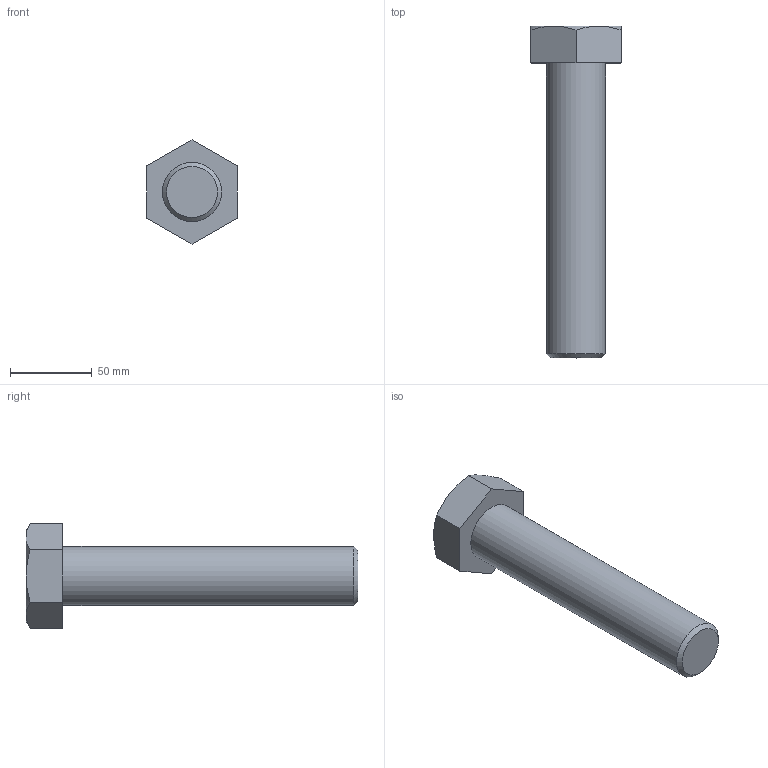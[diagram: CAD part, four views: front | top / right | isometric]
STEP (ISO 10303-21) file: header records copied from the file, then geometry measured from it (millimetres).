
FILE_DESCRIPTION(/* description */ (''),/* implementation_level */ '2;1');
FILE_NAME(/* name */ 'C:\Users\unitec\Documents\Inventor\各種小物\JIS\JIS B 1180 六角ボルト 等級C\hbc36\M36x180.stp',/* time_stamp */ '2015-02-13T14:56:40+09:00',/* author */ ('unitec'),/* organization */ (''),/* preprocessor_version */ 'ST-DEVELOPER v15.2',/* originating_system */ 'Autodesk Inventor 2014',/* authorisation */ '');
FILE_SCHEMA (('AUTOMOTIVE_DESIGN { 1 0 10303 214 3 1 1 }'));
Length unit declared in the file: millimetre
Products named in the file (1): M36x180
Bounding box: 55 x 202.5 x 63.51 mm (x, y, z)
Volume: 241656.9 mm3; surface area: 29590.9 mm2
Topology: 1 solids, 1 shells, 17 faces, 35 edges, 21 vertices
Faces by surface type: plane 9, cone 7, cylinder 1
Full cylindrical faces by diameter (mm): 36 x1
Entity records: 441 total; most frequent: CARTESIAN_POINT 96, ORIENTED_EDGE 66, DIRECTION 66, EDGE_CURVE 33, AXIS2_PLACEMENT_3D 27, VERTEX_POINT 21, EDGE_LOOP 20, ADVANCED_FACE 17
